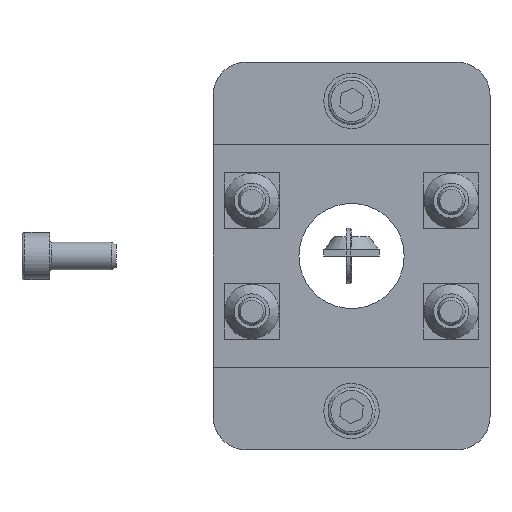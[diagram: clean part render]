
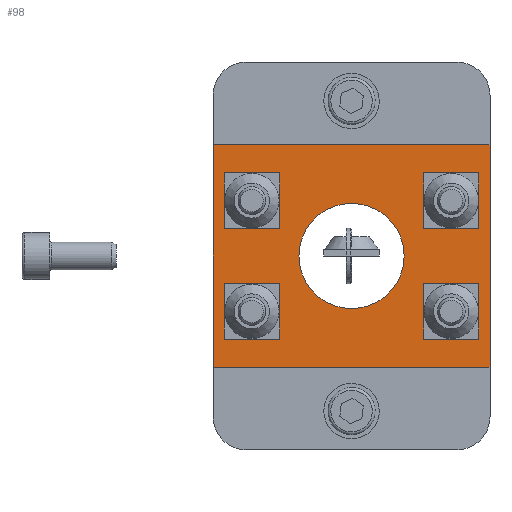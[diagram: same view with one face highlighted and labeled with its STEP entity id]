
A CAD part, front view. The second image highlights one B-rep face of the part: STEP entity #98.
In plain terms, the highlighted planar face has unit normal (0, -1, 0).
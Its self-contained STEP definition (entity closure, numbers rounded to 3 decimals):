
#98 = ADVANCED_FACE( '', ( #253, #254, #255, #256, #257, #258 ), #259, .T. );
#253 = FACE_BOUND( '', #505, .T. );
#254 = FACE_BOUND( '', #506, .T. );
#255 = FACE_BOUND( '', #507, .T. );
#256 = FACE_BOUND( '', #508, .T. );
#257 = FACE_BOUND( '', #509, .T. );
#258 = FACE_OUTER_BOUND( '', #510, .T. );
#259 = PLANE( '', #511 );
#505 = EDGE_LOOP( '', ( #763 ) );
#506 = EDGE_LOOP( '', ( #764 ) );
#507 = EDGE_LOOP( '', ( #765 ) );
#508 = EDGE_LOOP( '', ( #766 ) );
#509 = EDGE_LOOP( '', ( #767 ) );
#510 = EDGE_LOOP( '', ( #768, #769, #770, #771 ) );
#511 = AXIS2_PLACEMENT_3D( '', #772, #773, #774 );
#763 = ORIENTED_EDGE( '', *, *, #1195, .F. );
#764 = ORIENTED_EDGE( '', *, *, #1196, .F. );
#765 = ORIENTED_EDGE( '', *, *, #1197, .F. );
#766 = ORIENTED_EDGE( '', *, *, #1198, .F. );
#767 = ORIENTED_EDGE( '', *, *, #1199, .F. );
#768 = ORIENTED_EDGE( '', *, *, #1200, .T. );
#769 = ORIENTED_EDGE( '', *, *, #1201, .T. );
#770 = ORIENTED_EDGE( '', *, *, #1202, .F. );
#771 = ORIENTED_EDGE( '', *, *, #1203, .F. );
#772 = CARTESIAN_POINT( '', ( -28.975, 2.2, 20.05 ) );
#773 = DIRECTION( '', ( 0., -1., 0. ) );
#774 = DIRECTION( '', ( 0., 0., -1. ) );
#1195 = EDGE_CURVE( '', #1357, #1357, #1358, .T. );
#1196 = EDGE_CURVE( '', #1359, #1359, #1360, .T. );
#1197 = EDGE_CURVE( '', #1361, #1361, #1362, .T. );
#1198 = EDGE_CURVE( '', #1363, #1363, #1364, .T. );
#1199 = EDGE_CURVE( '', #1365, #1365, #1366, .T. );
#1200 = EDGE_CURVE( '', #1367, #1368, #1369, .T. );
#1201 = EDGE_CURVE( '', #1368, #1370, #1371, .T. );
#1202 = EDGE_CURVE( '', #1372, #1370, #1373, .T. );
#1203 = EDGE_CURVE( '', #1367, #1372, #1374, .T. );
#1357 = VERTEX_POINT( '', #1601 );
#1358 = CIRCLE( '', #1602, 9.5 );
#1359 = VERTEX_POINT( '', #1603 );
#1360 = CIRCLE( '', #1604, 2.6 );
#1361 = VERTEX_POINT( '', #1605 );
#1362 = CIRCLE( '', #1606, 2.6 );
#1363 = VERTEX_POINT( '', #1607 );
#1364 = CIRCLE( '', #1608, 2.6 );
#1365 = VERTEX_POINT( '', #1609 );
#1366 = CIRCLE( '', #1610, 2.6 );
#1367 = VERTEX_POINT( '', #1611 );
#1368 = VERTEX_POINT( '', #1612 );
#1369 = LINE( '', #1613, #1614 );
#1370 = VERTEX_POINT( '', #1615 );
#1371 = LINE( '', #1616, #1617 );
#1372 = VERTEX_POINT( '', #1618 );
#1373 = LINE( '', #1619, #1620 );
#1374 = LINE( '', #1621, #1622 );
#1601 = CARTESIAN_POINT( '', ( 9.5, 2.2, 0. ) );
#1602 = AXIS2_PLACEMENT_3D( '', #1914, #1915, #1916 );
#1603 = CARTESIAN_POINT( '', ( -18., 2.2, -12.6 ) );
#1604 = AXIS2_PLACEMENT_3D( '', #1917, #1918, #1919 );
#1605 = CARTESIAN_POINT( '', ( 18., 2.2, -12.6 ) );
#1606 = AXIS2_PLACEMENT_3D( '', #1920, #1921, #1922 );
#1607 = CARTESIAN_POINT( '', ( 18., 2.2, 7.4 ) );
#1608 = AXIS2_PLACEMENT_3D( '', #1923, #1924, #1925 );
#1609 = CARTESIAN_POINT( '', ( -18., 2.2, 7.4 ) );
#1610 = AXIS2_PLACEMENT_3D( '', #1926, #1927, #1928 );
#1611 = CARTESIAN_POINT( '', ( -25., 2.2, 20.05 ) );
#1612 = CARTESIAN_POINT( '', ( -25., 2.2, -20.05 ) );
#1613 = CARTESIAN_POINT( '', ( -25., 2.2, -35. ) );
#1614 = VECTOR( '', #1929, 1000. );
#1615 = CARTESIAN_POINT( '', ( 25., 2.2, -20.05 ) );
#1616 = CARTESIAN_POINT( '', ( -28.975, 2.2, -20.05 ) );
#1617 = VECTOR( '', #1930, 1000. );
#1618 = CARTESIAN_POINT( '', ( 25., 2.2, 20.05 ) );
#1619 = CARTESIAN_POINT( '', ( 25., 2.2, 20.05 ) );
#1620 = VECTOR( '', #1931, 1000. );
#1621 = CARTESIAN_POINT( '', ( -28.975, 2.2, 20.05 ) );
#1622 = VECTOR( '', #1932, 1000. );
#1914 = CARTESIAN_POINT( '', ( 0., 2.2, 0. ) );
#1915 = DIRECTION( '', ( 0., -1., 0. ) );
#1916 = DIRECTION( '', ( 1., 0., 0. ) );
#1917 = CARTESIAN_POINT( '', ( -18., 2.2, -10. ) );
#1918 = DIRECTION( '', ( 0., -1., 0. ) );
#1919 = DIRECTION( '', ( 0., 0., -1. ) );
#1920 = CARTESIAN_POINT( '', ( 18., 2.2, -10. ) );
#1921 = DIRECTION( '', ( 0., -1., 0. ) );
#1922 = DIRECTION( '', ( 0., 0., -1. ) );
#1923 = CARTESIAN_POINT( '', ( 18., 2.2, 10. ) );
#1924 = DIRECTION( '', ( 0., -1., 0. ) );
#1925 = DIRECTION( '', ( 0., 0., -1. ) );
#1926 = CARTESIAN_POINT( '', ( -18., 2.2, 10. ) );
#1927 = DIRECTION( '', ( 0., -1., 0. ) );
#1928 = DIRECTION( '', ( 0., 0., -1. ) );
#1929 = DIRECTION( '', ( 0., 0., -1. ) );
#1930 = DIRECTION( '', ( 1., 0., 0. ) );
#1931 = DIRECTION( '', ( 0., 0., -1. ) );
#1932 = DIRECTION( '', ( 1., 0., 0. ) );
